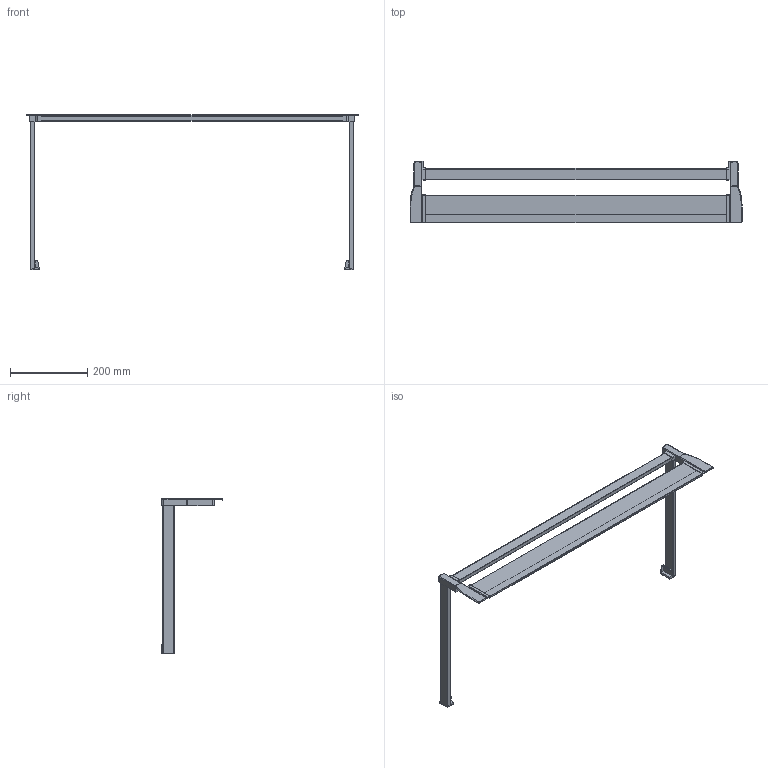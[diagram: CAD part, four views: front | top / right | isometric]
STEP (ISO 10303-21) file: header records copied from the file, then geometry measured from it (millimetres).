
FILE_DESCRIPTION (( 'STEP AP214' ), '1' );
FILE_NAME ('1_P620_NL 400_KAB 900_16er KS_.step', '2009-09-16T06:29:20', ( 'Waldinger Reinhard' ), ( 'Grass GmbH' ), 'SwSTEP 2.0', 'SolidWorks 2009', '' );
FILE_SCHEMA (( 'AUTOMOTIVE_DESIGN' ));
Length unit declared in the file: millimetre
Products named in the file (1): 1_P620_NL 400_KAB 900_16er KS_
Bounding box: 859.6 x 160.5 x 402.8 mm (x, y, z)
Volume: 1271462.3 mm3; surface area: 296653.6 mm2
Topology: 1 solids, 1 shells, 218 faces, 576 edges, 364 vertices
Faces by surface type: plane 97, cylinder 89, torus 28, sphere 2, bspline 2
Entity records: 6974 total; most frequent: CARTESIAN_POINT 1341, DIRECTION 1192, ORIENTED_EDGE 1148, EDGE_CURVE 574, AXIS2_PLACEMENT_3D 431, VERTEX_POINT 364, VECTOR 330, LINE 330
